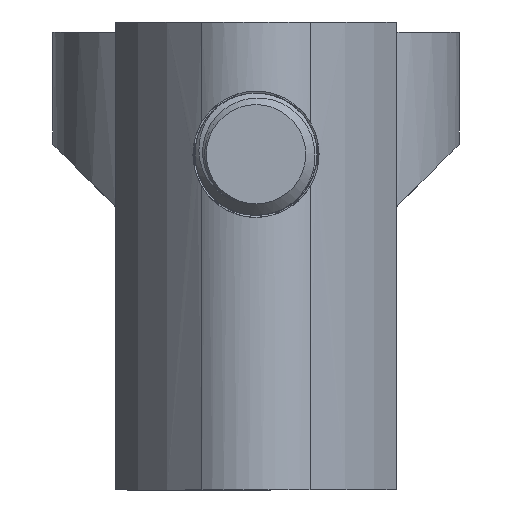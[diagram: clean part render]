
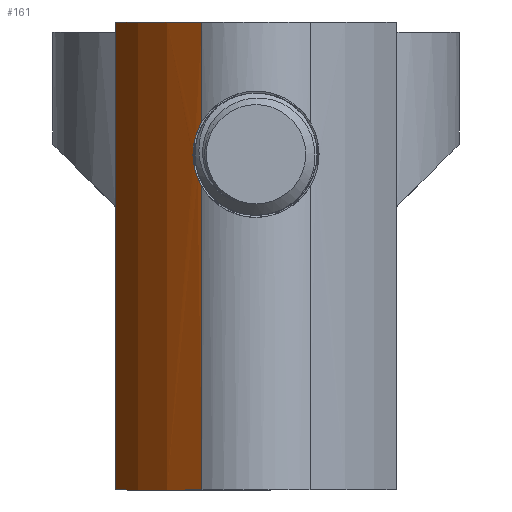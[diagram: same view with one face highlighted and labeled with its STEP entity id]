
A CAD part, left-side view. The second image highlights one B-rep face of the part: STEP entity #161.
In plain terms, the highlighted cylindrical face has radius 16 mm (diameter 32 mm), a partial arc.
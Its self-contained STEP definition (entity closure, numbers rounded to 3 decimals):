
#161 = ADVANCED_FACE( '', ( #328 ), #329, .T. );
#328 = FACE_OUTER_BOUND( '', #515, .T. );
#329 = CYLINDRICAL_SURFACE( '', #516, 16. );
#515 = EDGE_LOOP( '', ( #2284, #2285, #2286, #2287, #2288, #2289 ) );
#516 = AXIS2_PLACEMENT_3D( '', #2290, #2291, #2292 );
#2284 = ORIENTED_EDGE( '', *, *, #2525, .T. );
#2285 = ORIENTED_EDGE( '', *, *, #2572, .T. );
#2286 = ORIENTED_EDGE( '', *, *, #2579, .T. );
#2287 = ORIENTED_EDGE( '', *, *, #2580, .F. );
#2288 = ORIENTED_EDGE( '', *, *, #2556, .F. );
#2289 = ORIENTED_EDGE( '', *, *, #2558, .T. );
#2290 = CARTESIAN_POINT( '', ( -17.827, -7.968, -16.5 ) );
#2291 = DIRECTION( '', ( 0., 0., -1. ) );
#2292 = DIRECTION( '', ( 1., 0., 0. ) );
#2525 = EDGE_CURVE( '', #2728, #2726, #2729, .T. );
#2556 = EDGE_CURVE( '', #2775, #2771, #2777, .T. );
#2558 = EDGE_CURVE( '', #2775, #2728, #2779, .T. );
#2572 = EDGE_CURVE( '', #2726, #2797, #2799, .T. );
#2579 = EDGE_CURVE( '', #2797, #2808, #2809, .T. );
#2580 = EDGE_CURVE( '', #2771, #2808, #2810, .T. );
#2726 = VERTEX_POINT( '', #3760 );
#2728 = VERTEX_POINT( '', #3787 );
#2729 = LINE( '', #3788, #3789 );
#2771 = VERTEX_POINT( '', #3848 );
#2775 = VERTEX_POINT( '', #3853 );
#2777 = LINE( '', #3855, #3856 );
#2779 = CIRCLE( '', #3858, 16. );
#2797 = VERTEX_POINT( '', #4011 );
#2799 = B_SPLINE_CURVE_WITH_KNOTS( '', 3, ( #4038, #4039, #4040, #4041, #4042, #4043, #4044, #4045, #4046, #4047 ), .UNSPECIFIED., .F., .F., ( 4, 2, 2, 2, 4 ), ( 0., 0.001, 0.002, 0.003, 0.003 ), .UNSPECIFIED. );
#2808 = VERTEX_POINT( '', #4058 );
#2809 = LINE( '', #4059, #4060 );
#2810 = CIRCLE( '', #4061, 16. );
#3760 = CARTESIAN_POINT( '', ( -29.791, 2.656, -1.599 ) );
#3787 = CARTESIAN_POINT( '', ( -29.791, 2.656, -16.5 ) );
#3788 = CARTESIAN_POINT( '', ( -29.791, 2.656, -16.5 ) );
#3789 = VECTOR( '', #4540, 1000. );
#3848 = CARTESIAN_POINT( '', ( -23.774, 6.886, 6.5 ) );
#3853 = CARTESIAN_POINT( '', ( -23.774, 6.886, -16.5 ) );
#3855 = CARTESIAN_POINT( '', ( -23.774, 6.886, -16.5 ) );
#3856 = VECTOR( '', #4583, 1000. );
#3858 = AXIS2_PLACEMENT_3D( '', #4584, #4585, #4586 );
#4011 = CARTESIAN_POINT( '', ( -29.791, 2.656, 1.599 ) );
#4038 = CARTESIAN_POINT( '', ( -29.791, 2.656, -1.599 ) );
#4039 = CARTESIAN_POINT( '', ( -29.669, 2.793, -1.371 ) );
#4040 = CARTESIAN_POINT( '', ( -29.567, 2.903, -1.124 ) );
#4041 = CARTESIAN_POINT( '', ( -29.421, 3.059, -0.578 ) );
#4042 = CARTESIAN_POINT( '', ( -29.382, 3.1, -0.296 ) );
#4043 = CARTESIAN_POINT( '', ( -29.381, 3.1, 0.29 ) );
#4044 = CARTESIAN_POINT( '', ( -29.421, 3.059, 0.577 ) );
#4045 = CARTESIAN_POINT( '', ( -29.566, 2.904, 1.121 ) );
#4046 = CARTESIAN_POINT( '', ( -29.669, 2.793, 1.371 ) );
#4047 = CARTESIAN_POINT( '', ( -29.791, 2.656, 1.599 ) );
#4058 = CARTESIAN_POINT( '', ( -29.791, 2.656, 6.5 ) );
#4059 = CARTESIAN_POINT( '', ( -29.791, 2.656, -16.5 ) );
#4060 = VECTOR( '', #4602, 1000. );
#4061 = AXIS2_PLACEMENT_3D( '', #4603, #4604, #4605 );
#4540 = DIRECTION( '', ( 0., 0., 1. ) );
#4583 = DIRECTION( '', ( 0., 0., 1. ) );
#4584 = CARTESIAN_POINT( '', ( -17.827, -7.968, -16.5 ) );
#4585 = DIRECTION( '', ( 0., 0., 1. ) );
#4586 = DIRECTION( '', ( 0., 1., 0. ) );
#4602 = DIRECTION( '', ( 0., 0., 1. ) );
#4603 = CARTESIAN_POINT( '', ( -17.827, -7.968, 6.5 ) );
#4604 = DIRECTION( '', ( 0., 0., 1. ) );
#4605 = DIRECTION( '', ( 0., 1., 0. ) );
